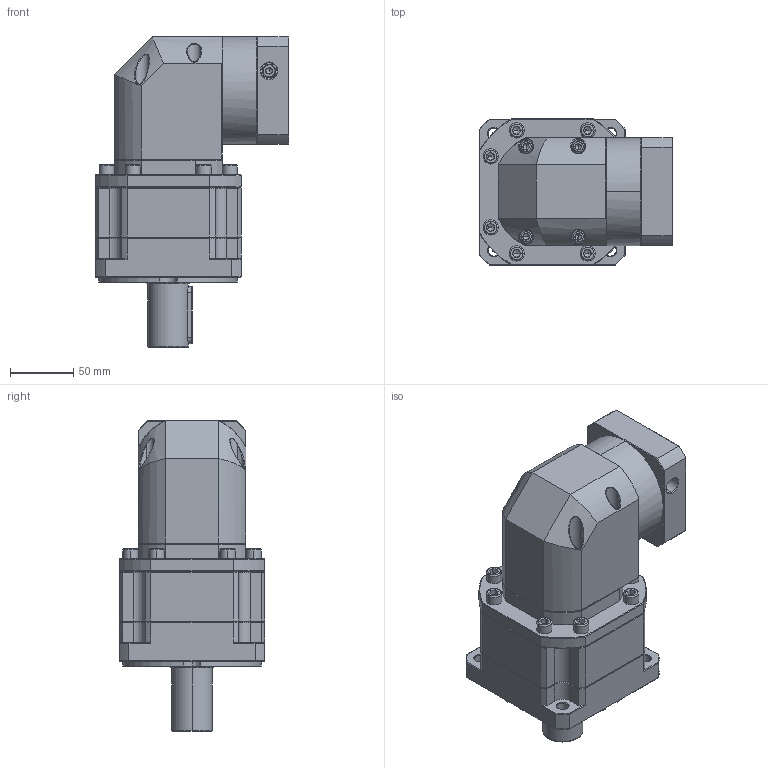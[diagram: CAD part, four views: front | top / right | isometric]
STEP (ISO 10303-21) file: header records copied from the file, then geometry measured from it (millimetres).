
FILE_DESCRIPTION (( 'STEP AP214' ), '1' );
FILE_NAME ('ZB115A-D32-L2-P2-14-60-75-M6.step', '2023-08-26T13:31:20', ( '' ), ( '' ), 'SwSTEP 2.0', 'SolidWorks 2016', '' );
FILE_SCHEMA (( 'AUTOMOTIVE_DESIGN' ));
Length unit declared in the file: millimetre
Products named in the file (1): ZB115A-D32-L2-P2-14-60-75-M6
Bounding box: 152.6 x 115 x 245 mm (x, y, z)
Volume: 1960538.9 mm3; surface area: 177254.1 mm2
Topology: 6 solids, 6 shells, 2610 faces, 6740 edges, 4238 vertices
Faces by surface type: plane 1300, cylinder 479, bspline 451, cone 366, torus 14
Entity records: 137714 total; most frequent: CARTESIAN_POINT 49319, ORIENTED_EDGE 13372, DIRECTION 10731, EDGE_CURVE 6686, VECTOR 4325, LINE 4325, VERTEX_POINT 4238, AXIS2_PLACEMENT_3D 3203
